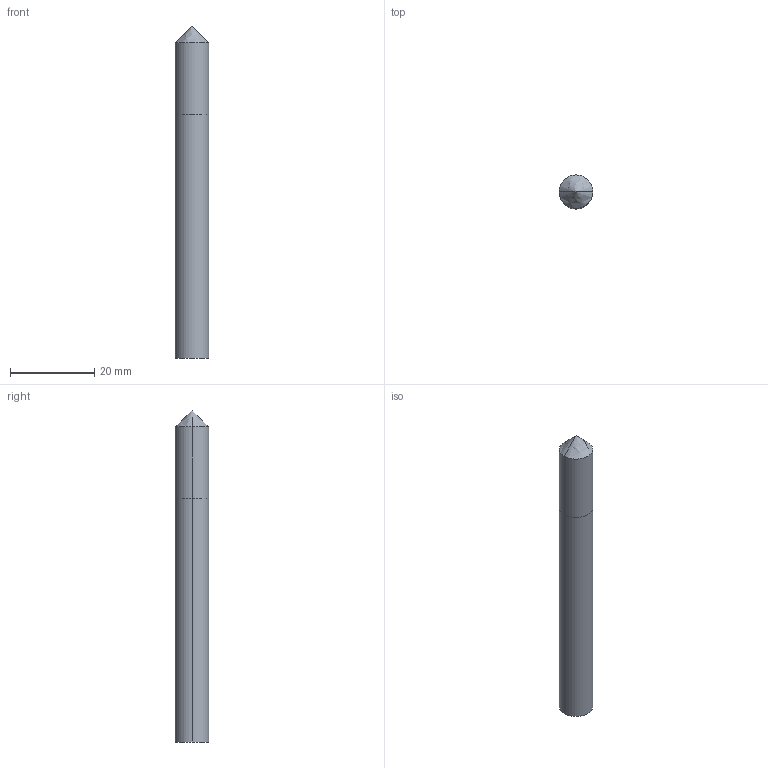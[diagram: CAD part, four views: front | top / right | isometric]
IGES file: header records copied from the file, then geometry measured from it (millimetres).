
Start section: 3D InterOp IGES (v. 2020 1.0.1), Spatial Corp. Copyright (c) 1999-2017.
Global section: file name: WZB11444_8.igs; native system: Spatial Corp.; preprocessor: 3D InterOp GENERIC/IGES 3.0; author: Noname; organization: Noname; date: 20201027.135347; units: metre
Bounding box: 8 x 8 x 79 mm (x, y, z)
Surface area: 2006.7 mm2 (no closed solid volume)
Topology: 0 solids, 0 shells, 8 faces, 30 edges, 28 vertices
Faces by surface type: revolution 6, extrusion 2
